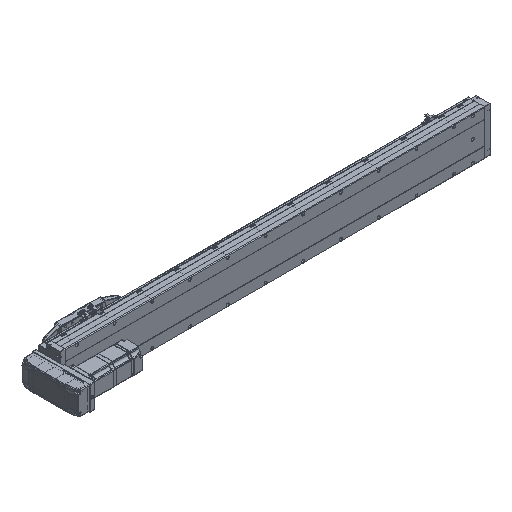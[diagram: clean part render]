
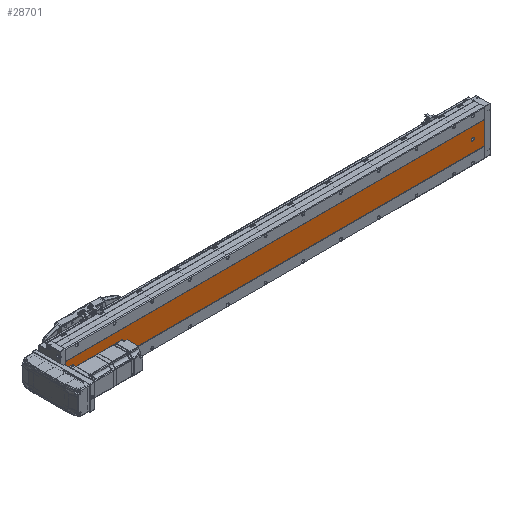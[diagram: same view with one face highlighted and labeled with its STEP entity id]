
A CAD part, isometric view. The second image highlights one B-rep face of the part: STEP entity #28701.
In plain terms, the highlighted planar face has unit normal (0, -1, 0).
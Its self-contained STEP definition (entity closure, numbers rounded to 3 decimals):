
#645 = DIRECTION ( 'NONE',  ( 0., 0., 1. ) ) ;
#1976 = VECTOR ( 'NONE', #64634, 1000. ) ;
#2537 = EDGE_CURVE ( 'NONE', #49300, #55344, #21947, .T. ) ;
#3032 = CARTESIAN_POINT ( 'NONE',  ( -43.392, -52.848, 30. ) ) ;
#3316 = CARTESIAN_POINT ( 'NONE',  ( -69.892, -52.848, 0. ) ) ;
#3348 = CARTESIAN_POINT ( 'NONE',  ( -69.892, -52.848, 1111. ) ) ;
#3658 = AXIS2_PLACEMENT_3D ( 'NONE', #73662, #66453, #41895 ) ;
#3834 = CARTESIAN_POINT ( 'NONE',  ( -39.892, -52.848, 30. ) ) ;
#3906 = LINE ( 'NONE', #4917, #7919 ) ;
#4093 = CARTESIAN_POINT ( 'NONE',  ( -36.392, -52.848, 1111. ) ) ;
#4605 = ORIENTED_EDGE ( 'NONE', *, *, #45446, .T. ) ;
#4917 = CARTESIAN_POINT ( 'NONE',  ( -69.892, -52.848, 0. ) ) ;
#5918 = EDGE_CURVE ( 'NONE', #47872, #43543, #53416, .T. ) ;
#6527 = CARTESIAN_POINT ( 'NONE',  ( -36.392, -52.848, 32. ) ) ;
#6724 = CARTESIAN_POINT ( 'NONE',  ( -39.892, -52.848, 977.5 ) ) ;
#7372 = CIRCLE ( 'NONE', #44326, 3.5 ) ;
#7614 = DIRECTION ( 'NONE',  ( 0., 0., 1. ) ) ;
#7919 = VECTOR ( 'NONE', #61657, 1000. ) ;
#8388 = EDGE_CURVE ( 'NONE', #8932, #81760, #21424, .T. ) ;
#8910 = DIRECTION ( 'NONE',  ( 0., 1., 0. ) ) ;
#8932 = VERTEX_POINT ( 'NONE', #27123 ) ;
#10137 = CARTESIAN_POINT ( 'NONE',  ( -9.892, -52.848, 1111. ) ) ;
#11762 = CIRCLE ( 'NONE', #50799, 3.5 ) ;
#12126 = LINE ( 'NONE', #57019, #44218 ) ;
#13008 = LINE ( 'NONE', #10137, #27995 ) ;
#13077 = VERTEX_POINT ( 'NONE', #3032 ) ;
#15812 = FACE_BOUND ( 'NONE', #79287, .T. ) ;
#16717 = DIRECTION ( 'NONE',  ( 0., 0., 1. ) ) ;
#17471 = EDGE_CURVE ( 'NONE', #33921, #81365, #12126, .T. ) ;
#17957 = EDGE_CURVE ( 'NONE', #55344, #49300, #64075, .T. ) ;
#20068 = CARTESIAN_POINT ( 'NONE',  ( -43.392, -52.848, 32. ) ) ;
#20417 = ORIENTED_EDGE ( 'NONE', *, *, #17957, .T. ) ;
#20671 = VERTEX_POINT ( 'NONE', #57188 ) ;
#21424 = CIRCLE ( 'NONE', #34977, 3.5 ) ;
#21947 = CIRCLE ( 'NONE', #3658, 3.5 ) ;
#23227 = ORIENTED_EDGE ( 'NONE', *, *, #17471, .F. ) ;
#24181 = ORIENTED_EDGE ( 'NONE', *, *, #39600, .T. ) ;
#24249 = EDGE_LOOP ( 'NONE', ( #63589, #76113, #23227, #24181 ) ) ;
#26377 = CARTESIAN_POINT ( 'NONE',  ( -39.892, -52.848, 1081. ) ) ;
#27118 = AXIS2_PLACEMENT_3D ( 'NONE', #3834, #48605, #16717 ) ;
#27123 = CARTESIAN_POINT ( 'NONE',  ( -36.392, -52.848, 30. ) ) ;
#27995 = VECTOR ( 'NONE', #55159, 1000. ) ;
#28534 = VERTEX_POINT ( 'NONE', #62316 ) ;
#28701 = ADVANCED_FACE ( 'NONE', ( #74701, #77765, #15812, #62811 ), #71732, .F. ) ;
#28974 = EDGE_CURVE ( 'NONE', #63442, #28534, #3906, .T. ) ;
#32515 = DIRECTION ( 'NONE',  ( 0., 1., 0. ) ) ;
#32752 = VECTOR ( 'NONE', #61669, 1000. ) ;
#33921 = VERTEX_POINT ( 'NONE', #3348 ) ;
#34977 = AXIS2_PLACEMENT_3D ( 'NONE', #66030, #39821, #40092 ) ;
#37841 = VECTOR ( 'NONE', #48824, 1000. ) ;
#38409 = AXIS2_PLACEMENT_3D ( 'NONE', #26377, #65205, #7614 ) ;
#38433 = EDGE_LOOP ( 'NONE', ( #45365, #4605 ) ) ;
#38701 = AXIS2_PLACEMENT_3D ( 'NONE', #77170, #39520, #645 ) ;
#39520 = DIRECTION ( 'NONE',  ( 0., 1., 0. ) ) ;
#39600 = EDGE_CURVE ( 'NONE', #33921, #63442, #57067, .T. ) ;
#39821 = DIRECTION ( 'NONE',  ( 0., 1., 0. ) ) ;
#40092 = DIRECTION ( 'NONE',  ( 0., 0., 1. ) ) ;
#40816 = DIRECTION ( 'NONE',  ( 0., 0., 1. ) ) ;
#41645 = EDGE_CURVE ( 'NONE', #81365, #28534, #13008, .T. ) ;
#41895 = DIRECTION ( 'NONE',  ( 0., 0., 1. ) ) ;
#42564 = EDGE_CURVE ( 'NONE', #43543, #8932, #66734, .T. ) ;
#43543 = VERTEX_POINT ( 'NONE', #6527 ) ;
#44218 = VECTOR ( 'NONE', #57570, 1000. ) ;
#44326 = AXIS2_PLACEMENT_3D ( 'NONE', #53128, #8910, #40816 ) ;
#44855 = DIRECTION ( 'NONE',  ( 0., 0., 1. ) ) ;
#45365 = ORIENTED_EDGE ( 'NONE', *, *, #60562, .T. ) ;
#45446 = EDGE_CURVE ( 'NONE', #20671, #47103, #11762, .T. ) ;
#45665 = CARTESIAN_POINT ( 'NONE',  ( -39.892, -52.848, 1084.5 ) ) ;
#46558 = ORIENTED_EDGE ( 'NONE', *, *, #68120, .T. ) ;
#47103 = VERTEX_POINT ( 'NONE', #6724 ) ;
#47872 = VERTEX_POINT ( 'NONE', #20068 ) ;
#48605 = DIRECTION ( 'NONE',  ( 0., 1., 0. ) ) ;
#48824 = DIRECTION ( 'NONE',  ( 0., 0., 1. ) ) ;
#49300 = VERTEX_POINT ( 'NONE', #68986 ) ;
#50799 = AXIS2_PLACEMENT_3D ( 'NONE', #69941, #32515, #44855 ) ;
#53088 = CARTESIAN_POINT ( 'NONE',  ( -69.892, -52.848, 1111. ) ) ;
#53128 = CARTESIAN_POINT ( 'NONE',  ( -39.892, -52.848, 981. ) ) ;
#53416 = CIRCLE ( 'NONE', #38701, 3.5 ) ;
#55159 = DIRECTION ( 'NONE',  ( 0., 0., -1. ) ) ;
#55344 = VERTEX_POINT ( 'NONE', #45665 ) ;
#57019 = CARTESIAN_POINT ( 'NONE',  ( -69.892, -52.848, 1111. ) ) ;
#57067 = LINE ( 'NONE', #64344, #1976 ) ;
#57188 = CARTESIAN_POINT ( 'NONE',  ( -39.892, -52.848, 984.5 ) ) ;
#57570 = DIRECTION ( 'NONE',  ( 1., 0., 0. ) ) ;
#58103 = CARTESIAN_POINT ( 'NONE',  ( -39.892, -52.848, 26.5 ) ) ;
#58959 = AXIS2_PLACEMENT_3D ( 'NONE', #53088, #65093, #72261 ) ;
#59603 = CIRCLE ( 'NONE', #27118, 3.5 ) ;
#60562 = EDGE_CURVE ( 'NONE', #47103, #20671, #7372, .T. ) ;
#61350 = CARTESIAN_POINT ( 'NONE',  ( -43.392, -52.848, 1111. ) ) ;
#61657 = DIRECTION ( 'NONE',  ( 1., 0., 0. ) ) ;
#61669 = DIRECTION ( 'NONE',  ( 0., 0., -1. ) ) ;
#62316 = CARTESIAN_POINT ( 'NONE',  ( -9.892, -52.848, 0. ) ) ;
#62811 = FACE_OUTER_BOUND ( 'NONE', #24249, .T. ) ;
#63024 = ORIENTED_EDGE ( 'NONE', *, *, #8388, .T. ) ;
#63442 = VERTEX_POINT ( 'NONE', #3316 ) ;
#63589 = ORIENTED_EDGE ( 'NONE', *, *, #28974, .T. ) ;
#64075 = CIRCLE ( 'NONE', #38409, 3.5 ) ;
#64344 = CARTESIAN_POINT ( 'NONE',  ( -69.892, -52.848, 1111. ) ) ;
#64634 = DIRECTION ( 'NONE',  ( 0., 0., -1. ) ) ;
#65093 = DIRECTION ( 'NONE',  ( 0., 1., 0. ) ) ;
#65205 = DIRECTION ( 'NONE',  ( 0., 1., 0. ) ) ;
#65633 = ORIENTED_EDGE ( 'NONE', *, *, #2537, .T. ) ;
#66030 = CARTESIAN_POINT ( 'NONE',  ( -39.892, -52.848, 30. ) ) ;
#66453 = DIRECTION ( 'NONE',  ( 0., 1., 0. ) ) ;
#66734 = LINE ( 'NONE', #4093, #32752 ) ;
#68120 = EDGE_CURVE ( 'NONE', #81760, #13077, #59603, .T. ) ;
#68986 = CARTESIAN_POINT ( 'NONE',  ( -39.892, -52.848, 1077.5 ) ) ;
#69941 = CARTESIAN_POINT ( 'NONE',  ( -39.892, -52.848, 981. ) ) ;
#71536 = CARTESIAN_POINT ( 'NONE',  ( -9.892, -52.848, 1111. ) ) ;
#71732 = PLANE ( 'NONE',  #58959 ) ;
#72029 = EDGE_CURVE ( 'NONE', #13077, #47872, #74724, .T. ) ;
#72261 = DIRECTION ( 'NONE',  ( 0., 0., 1. ) ) ;
#73662 = CARTESIAN_POINT ( 'NONE',  ( -39.892, -52.848, 1081. ) ) ;
#74701 = FACE_BOUND ( 'NONE', #76117, .T. ) ;
#74724 = LINE ( 'NONE', #61350, #37841 ) ;
#76113 = ORIENTED_EDGE ( 'NONE', *, *, #41645, .F. ) ;
#76117 = EDGE_LOOP ( 'NONE', ( #78011, #82176, #63024, #46558, #81528 ) ) ;
#77170 = CARTESIAN_POINT ( 'NONE',  ( -39.892, -52.848, 32. ) ) ;
#77765 = FACE_BOUND ( 'NONE', #38433, .T. ) ;
#78011 = ORIENTED_EDGE ( 'NONE', *, *, #5918, .T. ) ;
#79287 = EDGE_LOOP ( 'NONE', ( #65633, #20417 ) ) ;
#81365 = VERTEX_POINT ( 'NONE', #71536 ) ;
#81528 = ORIENTED_EDGE ( 'NONE', *, *, #72029, .T. ) ;
#81760 = VERTEX_POINT ( 'NONE', #58103 ) ;
#82176 = ORIENTED_EDGE ( 'NONE', *, *, #42564, .T. ) ;
